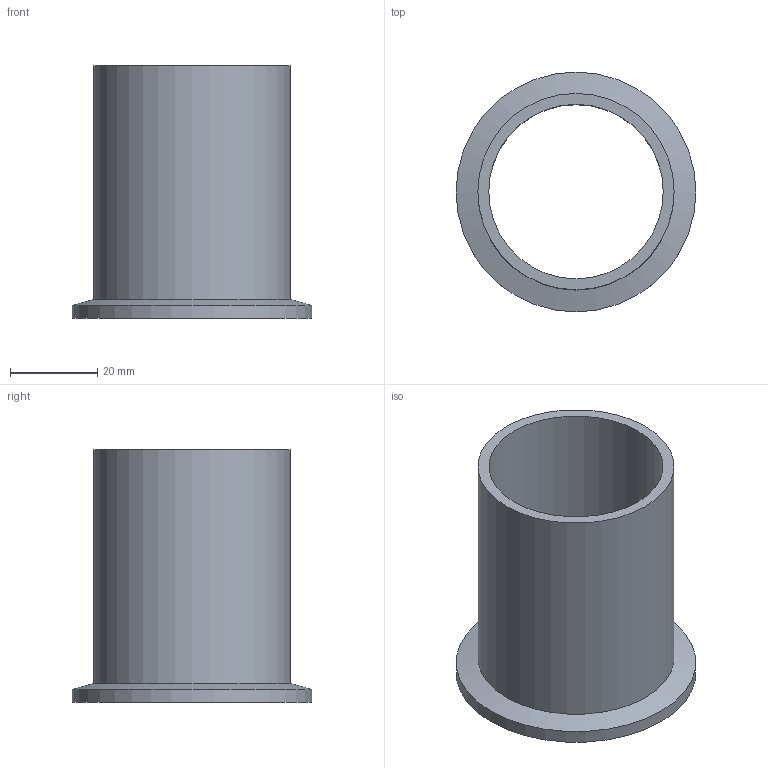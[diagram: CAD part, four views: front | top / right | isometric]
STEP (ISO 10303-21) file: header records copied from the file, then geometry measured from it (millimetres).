
FILE_DESCRIPTION( ( 'Unknown' ), '1' );
FILE_NAME( 'X:/Daten ( aktueller Bestand )/Projekte und Zeichnungen/Solid Edge/2 Bauteile KF/Stahl/KF mit Rohransatz Stahl lang/1566.stp', 'Unknown', ( 'Unknown' ), ( 'Unknown' ), 'XStep 1.0', 'Unknown', ' ' );
FILE_SCHEMA( ( 'automotive_design' ) );
Length unit declared in the file: millimetre
Products named in the file (1): 1
Bounding box: 55 x 55 x 58 mm (x, y, z)
Volume: 22033.5 mm3; surface area: 17668.4 mm2
Topology: 1 solids, 1 shells, 8 faces, 13 edges, 8 vertices
Faces by surface type: cylinder 4, plane 3, cone 1
Full cylindrical faces by diameter (mm): 40 x1, 41.2 x1, 45 x1, 55 x1
Entity records: 248 total; most frequent: DIRECTION 34, CARTESIAN_POINT 25, AXIS2_PLACEMENT_3D 17, EDGE_LOOP 16, ORIENTED_EDGE 16, FACE_OUTER_BOUND 12, STYLED_ITEM 8, PRESENTATION_STYLE_ASSIGNMENT 8
